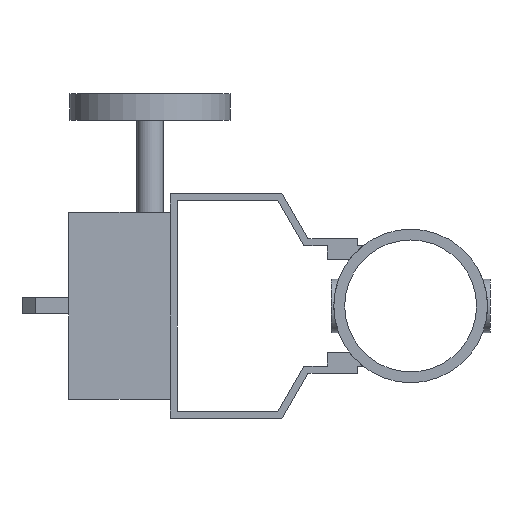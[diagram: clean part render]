
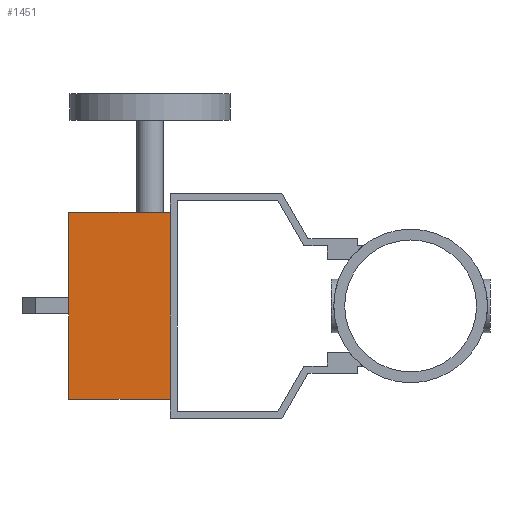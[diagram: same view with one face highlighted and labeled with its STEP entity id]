
A CAD part, left-side view. The second image highlights one B-rep face of the part: STEP entity #1451.
In plain terms, the highlighted planar face has unit normal (-1, 0, 0).
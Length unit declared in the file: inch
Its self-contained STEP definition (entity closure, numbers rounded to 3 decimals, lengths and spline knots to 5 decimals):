
#166=FACE_OUTER_BOUND('',#248,.T.);
#248=EDGE_LOOP('',(#1083,#1084,#1085,#1086));
#351=LINE('',#2317,#492);
#361=LINE('',#2337,#502);
#363=LINE('',#2341,#504);
#364=LINE('',#2342,#505);
#492=VECTOR('',#1827,0.3937);
#502=VECTOR('',#1843,0.3937);
#504=VECTOR('',#1847,0.3937);
#505=VECTOR('',#1848,0.3937);
#645=VERTEX_POINT('',#2314);
#646=VERTEX_POINT('',#2316);
#653=VERTEX_POINT('',#2335);
#654=VERTEX_POINT('',#2340);
#803=EDGE_CURVE('',#645,#646,#351,.T.);
#813=EDGE_CURVE('',#645,#653,#361,.T.);
#815=EDGE_CURVE('',#654,#653,#363,.T.);
#816=EDGE_CURVE('',#646,#654,#364,.T.);
#1083=ORIENTED_EDGE('',*,*,#803,.F.);
#1084=ORIENTED_EDGE('',*,*,#813,.T.);
#1085=ORIENTED_EDGE('',*,*,#815,.F.);
#1086=ORIENTED_EDGE('',*,*,#816,.F.);
#1311=PLANE('',#1574);
#1451=ADVANCED_FACE('',(#166),#1311,.T.);
#1574=AXIS2_PLACEMENT_3D('',#2339,#1845,#1846);
#1827=DIRECTION('',(0.,0.,-1.));
#1843=DIRECTION('',(0.,1.,0.));
#1845=DIRECTION('center_axis',(-1.,0.,0.));
#1846=DIRECTION('ref_axis',(0.,0.,1.));
#1847=DIRECTION('',(0.,0.,1.));
#1848=DIRECTION('',(0.,1.,0.));
#2314=CARTESIAN_POINT('',(-1.5,4.5,1.75));
#2316=CARTESIAN_POINT('',(-1.5,4.5,-1.75));
#2317=CARTESIAN_POINT('',(-1.5,4.5,1.75));
#2335=CARTESIAN_POINT('',(-1.5,6.4,1.75));
#2337=CARTESIAN_POINT('',(-1.5,4.5,1.75));
#2339=CARTESIAN_POINT('Origin',(-1.5,4.5,-1.75));
#2340=CARTESIAN_POINT('',(-1.5,6.4,-1.75));
#2341=CARTESIAN_POINT('',(-1.5,6.4,1.75));
#2342=CARTESIAN_POINT('',(-1.5,4.5,-1.75));
